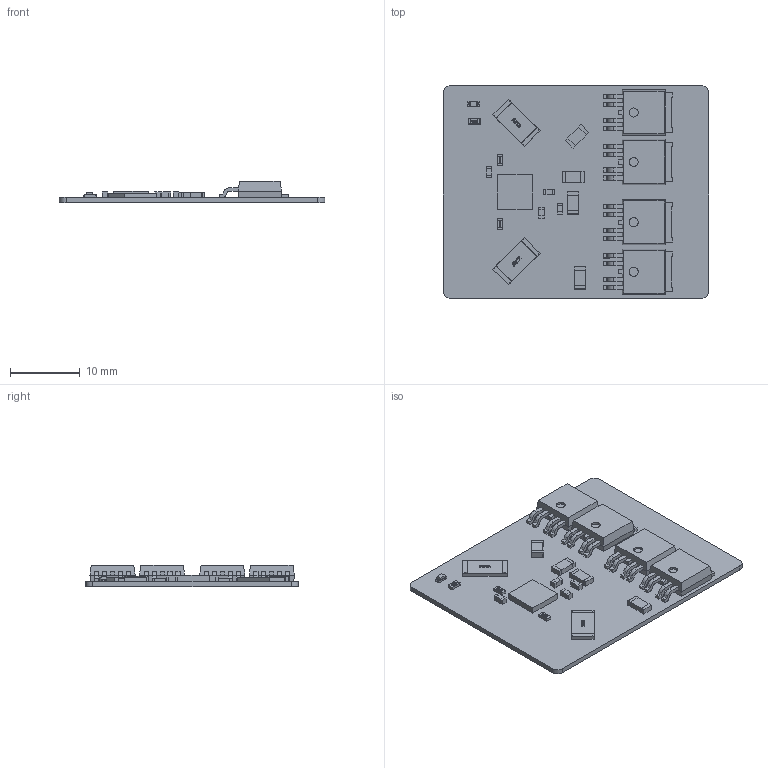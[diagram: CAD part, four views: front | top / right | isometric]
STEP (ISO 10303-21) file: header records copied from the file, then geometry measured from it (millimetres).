
FILE_DESCRIPTION(('Open CASCADE Model'),'2;1');
FILE_NAME('Open CASCADE Shape Model','2017-08-15T21:48:30',('Author'),( 'Open CASCADE'),'Open CASCADE STEP processor 6.8','Open CASCADE 6.8' ,'Unknown');
FILE_SCHEMA(('AUTOMOTIVE_DESIGN { 1 0 10303 214 1 1 1 1 }'));
Products named in the file (1): PCB
Bounding box: 38.1 x 30.48 x 3.02 mm (x, y, z)
Volume: 1291.8 mm3; surface area: 3783.1 mm2
Topology: 40 solids, 499 shells, 1196 faces, 4088 edges, 3371 vertices
Faces by surface type: plane 733, bspline 205, cylinder 194, sphere 64
Entity records: 61337 total; most frequent: CARTESIAN_POINT 24497, DIRECTION 6049, ORIENTED_EDGE 5710, EDGE_CURVE 4024, VERTEX_POINT 3371, LINE 2753, VECTOR 2753, AXIS2_PLACEMENT_3D 1648
